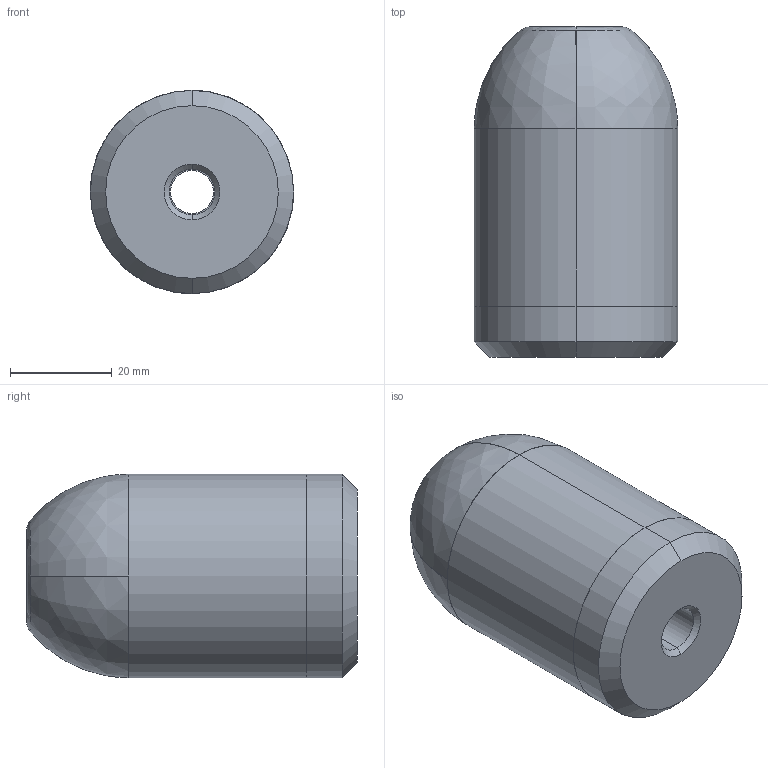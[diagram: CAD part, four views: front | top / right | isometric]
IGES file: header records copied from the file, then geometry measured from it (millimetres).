
Start section: START RECORD GO HERE.
Global section: file name: 700-40-65.igs; native system: DASSAULT SYSTEMES CATIA V5 R20 - www.3ds.com; preprocessor: CATIA Version 5 Release 20 ; author: Utente; organization: NB04-ASUS; date: 20201129.131603; units: millimetre
Bounding box: 40 x 65 x 40 mm (x, y, z)
Surface area: 11063.4 mm2 (no closed solid volume)
Topology: 0 solids, 0 shells, 24 faces, 100 edges, 100 vertices
Faces by surface type: revolution 20, plane 4
